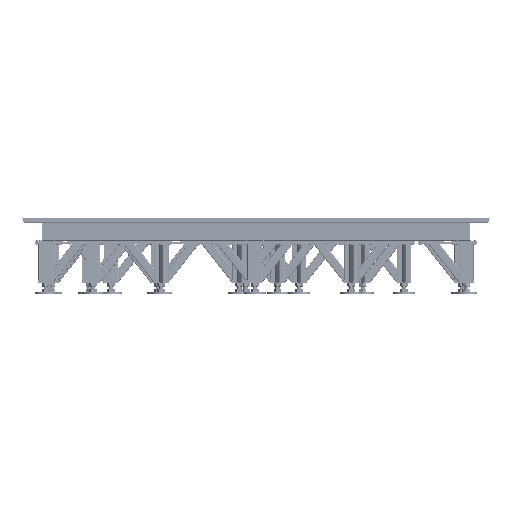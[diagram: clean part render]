
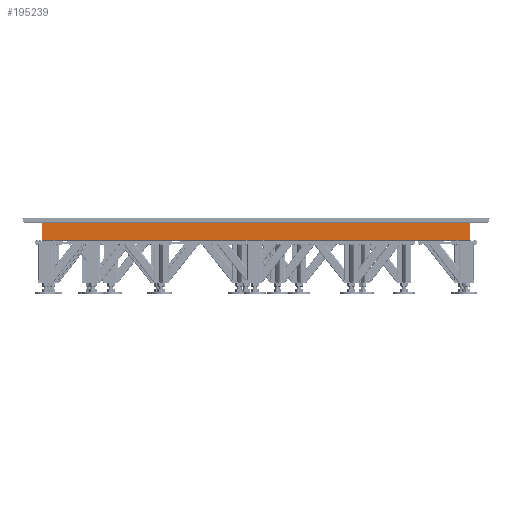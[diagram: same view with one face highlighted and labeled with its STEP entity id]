
A CAD part, left-side view. The second image highlights one B-rep face of the part: STEP entity #195239.
In plain terms, the highlighted planar face has unit normal (-1, 0, 0) as drawn and (0, 1, 0) by its records, which use the part's own axes.
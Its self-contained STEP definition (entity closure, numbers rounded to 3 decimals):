
#762 = ORIENTED_EDGE ( 'NONE', *, *, #106200, .T. ) ;
#9253 = EDGE_CURVE ( 'NONE', #156561, #45423, #105185, .T. ) ;
#11677 = DIRECTION ( 'NONE',  ( 0., 0., -1. ) ) ;
#44536 = CARTESIAN_POINT ( 'NONE',  ( 1673.937, 8737.102, -69. ) ) ;
#45423 = VERTEX_POINT ( 'NONE', #85406 ) ;
#49020 = VERTEX_POINT ( 'NONE', #68979 ) ;
#58381 = VERTEX_POINT ( 'NONE', #181481 ) ;
#68979 = CARTESIAN_POINT ( 'NONE',  ( 5162.937, 8737.102, -69. ) ) ;
#78274 = CARTESIAN_POINT ( 'NONE',  ( 5162.937, 8737.102, -69. ) ) ;
#84681 = CARTESIAN_POINT ( 'NONE',  ( 1673.937, 8737.102, -69. ) ) ;
#85406 = CARTESIAN_POINT ( 'NONE',  ( 2247.937, 8737.102, -69. ) ) ;
#92322 = CARTESIAN_POINT ( 'NONE',  ( 1673.937, 8737.102, 69. ) ) ;
#105185 = LINE ( 'NONE', #191604, #198914 ) ;
#106200 = EDGE_CURVE ( 'NONE', #58381, #49020, #142260, .T. ) ;
#108610 = CARTESIAN_POINT ( 'NONE',  ( 2247.937, 8737.102, 69. ) ) ;
#135016 = ORIENTED_EDGE ( 'NONE', *, *, #9253, .F. ) ;
#142260 = LINE ( 'NONE', #78274, #198662 ) ;
#143257 = ORIENTED_EDGE ( 'NONE', *, *, #226006, .F. ) ;
#156561 = VERTEX_POINT ( 'NONE', #108610 ) ;
#157519 = EDGE_LOOP ( 'NONE', ( #237488, #762, #143257, #135016 ) ) ;
#169409 = FACE_OUTER_BOUND ( 'NONE', #157519, .T. ) ;
#171256 = DIRECTION ( 'NONE',  ( 0., -1., 0. ) ) ;
#174765 = LINE ( 'NONE', #44536, #234129 ) ;
#176263 = DIRECTION ( 'NONE',  ( 0., 0., -1. ) ) ;
#178157 = PLANE ( 'NONE',  #236290 ) ;
#178272 = EDGE_CURVE ( 'NONE', #156561, #58381, #243273, .T. ) ;
#181481 = CARTESIAN_POINT ( 'NONE',  ( 5162.937, 8737.102, 69. ) ) ;
#183920 = DIRECTION ( 'NONE',  ( 0., 0., -1. ) ) ;
#191604 = CARTESIAN_POINT ( 'NONE',  ( 2247.937, 8737.102, -69. ) ) ;
#192775 = DIRECTION ( 'NONE',  ( 1., 0., 0. ) ) ;
#195239 = ADVANCED_FACE ( 'NONE', ( #169409 ), #178157, .F. ) ;
#198662 = VECTOR ( 'NONE', #176263, 1000. ) ;
#198914 = VECTOR ( 'NONE', #11677, 1000. ) ;
#211941 = VECTOR ( 'NONE', #192775, 1000. ) ;
#221844 = DIRECTION ( 'NONE',  ( 1., 0., 0. ) ) ;
#226006 = EDGE_CURVE ( 'NONE', #45423, #49020, #174765, .T. ) ;
#234129 = VECTOR ( 'NONE', #221844, 1000. ) ;
#236290 = AXIS2_PLACEMENT_3D ( 'NONE', #84681, #171256, #183920 ) ;
#237488 = ORIENTED_EDGE ( 'NONE', *, *, #178272, .T. ) ;
#243273 = LINE ( 'NONE', #92322, #211941 ) ;
